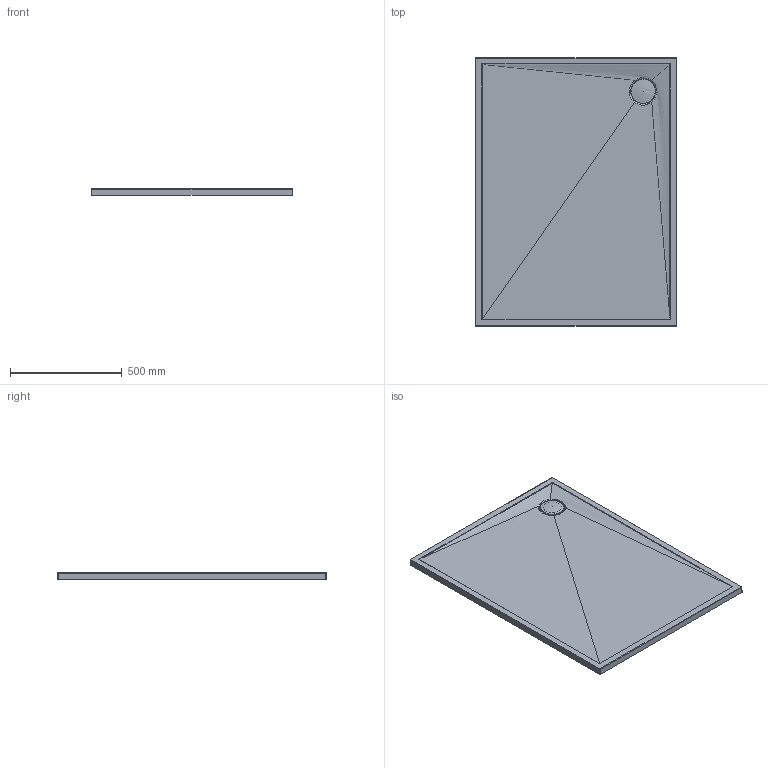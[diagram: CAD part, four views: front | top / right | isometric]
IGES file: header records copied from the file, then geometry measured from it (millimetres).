
Global section: file name: 5280e5c9-bc05-4c50-b2c7-76988f1809cc; native system: unknown; preprocessor: unknown; author: unknown; organization: unknown; date: 20200320.104907; units: millimetre
Bounding box: 900 x 1200 x 30 mm (x, y, z)
Volume: 26987481.5 mm3; surface area: 2296188.4 mm2
Topology: 2 solids, 2 shells, 33 faces, 83 edges, 54 vertices
Faces by surface type: bspline 33
